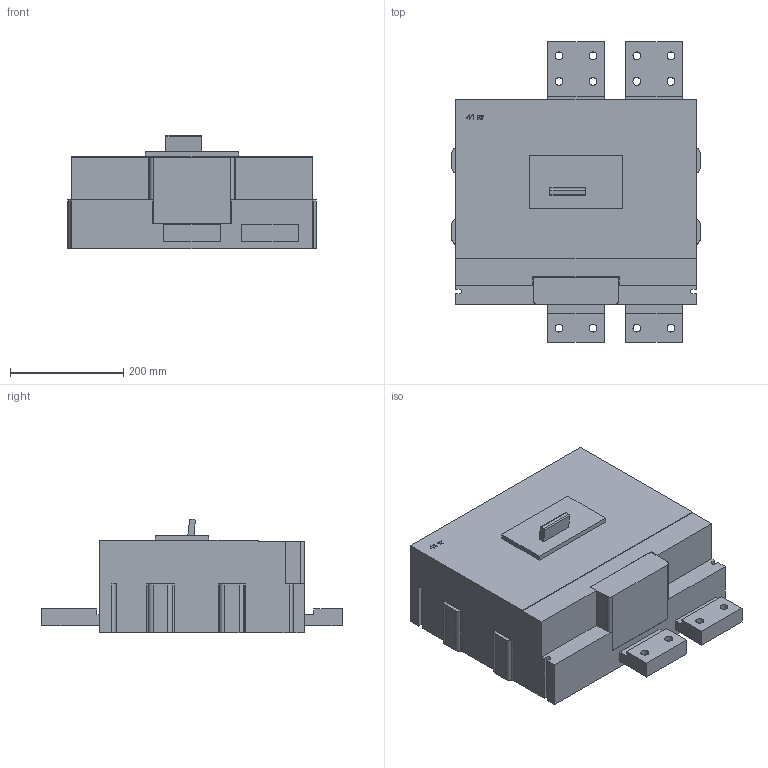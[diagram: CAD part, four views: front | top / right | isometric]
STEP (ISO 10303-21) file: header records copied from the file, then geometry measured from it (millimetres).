
FILE_DESCRIPTION (( 'STEP AP214' ), '1' );
FILE_NAME ('ﾂﾀ 53(55)-43 DC 2000ﾀ.STEP', '2023-02-08T12:21:09', ( '' ), ( '' ), 'SwSTEP 2.0', 'SolidWorks 2018', '' );
FILE_SCHEMA (( 'AUTOMOTIVE_DESIGN' ));
Length unit declared in the file: millimetre
Products named in the file (1): ﾂﾀ 53(55)-43 DC 2000ﾀ
Bounding box: 438 x 530 x 200.19 mm (x, y, z)
Volume: 25390392.1 mm3; surface area: 726023 mm2
Topology: 1 solids, 1 shells, 135 faces, 421 edges, 299 vertices
Faces by surface type: plane 99, cylinder 34, bspline 2
Full cylindrical faces by diameter (mm): 14 x12
Entity records: 4771 total; most frequent: CARTESIAN_POINT 960, ORIENTED_EDGE 794, DIRECTION 716, EDGE_CURVE 397, VECTOR 312, LINE 312, VERTEX_POINT 287, AXIS2_PLACEMENT_3D 202
